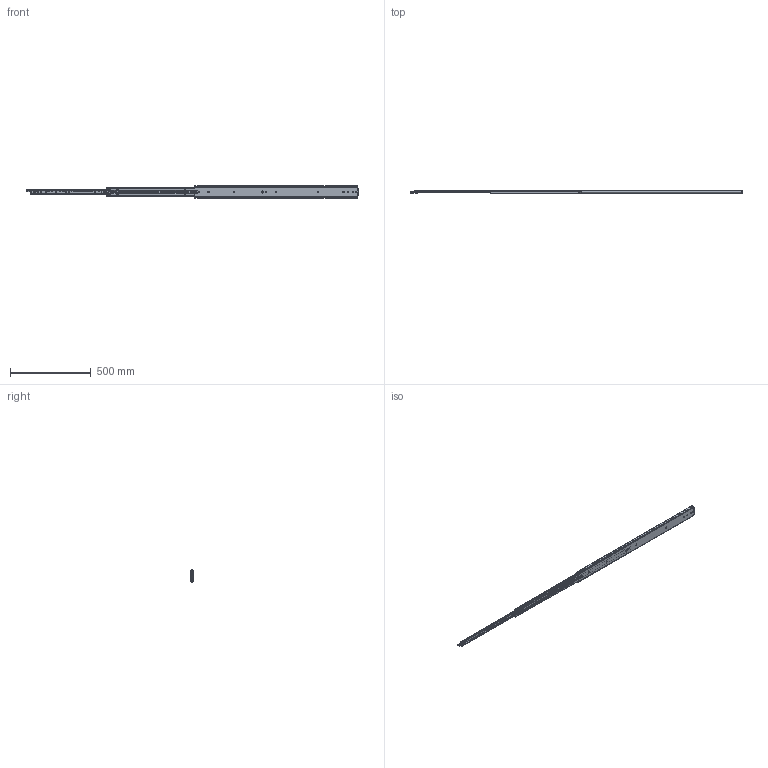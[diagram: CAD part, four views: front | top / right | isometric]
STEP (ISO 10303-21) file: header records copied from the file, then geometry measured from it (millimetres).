
FILE_DESCRIPTION((''),'2;1');
FILE_NAME('DG-76-3S-40YOU_ASM','2023-05-11T',('jishu015'),(''),'PRO/ENGINEER BY PARAMETRIC TECHNOLOGY CORPORATION, 2010280','PRO/ENGINEER BY PARAMETRIC TECHNOLOGY CORPORATION, 2010280','');
FILE_SCHEMA(('CONFIG_CONTROL_DESIGN'));
Products named in the file (29): KP-76-04WAIKE-1816__________; 1076-WAIKEZIDANJIAO16__________; WAIK16___________ASM; 1076XIAOZHUTIAO-22516__________; 16__________; 1076XIAOZHUTIAO-17516___________ASM; KP-76-04ZHONGGUI1816__________; 76CHANGGUIZHONGGUIJIAO1621__; 3X6WODIN16__________; ZHONGGUIBAIKOU16__________; PJ-76-30_________; PJ-76-03_________; 76-XIAOZHUJIA-11_________; GANGZHU-XIAO_________; ZHUJIA-XIAO__________ASM; ZHONGGUI6___________ASM; KP-76-04NEIGUI1816__________; PJ-76-31_________; DAOGPIAN16__________; 1053-3SBANJ01_________; JIAO-11_________; 76XINSUOKOU_________; PJ-338_________; PJ-356_________; PJ-357_________; PJ-336_________; M4X4_________; NEIGUI16___________ASM; DG-76-3S-40YOU_ASM
Assembly tree (83 placements, depth 4):
  DG-76-3S-40YOU_ASM
    WAIK16___________ASM
      KP-76-04WAIKE-1816__________
      1076-WAIKEZIDANJIAO16__________  x2
    1076XIAOZHUTIAO-17516___________ASM  x2
      1076XIAOZHUTIAO-22516__________
      16__________
    ZHONGGUI6___________ASM
      KP-76-04ZHONGGUI1816__________
      76CHANGGUIZHONGGUIJIAO1621__
      3X6WODIN16__________
      ZHONGGUIBAIKOU16__________
      PJ-76-30_________
      PJ-76-03_________
      ZHUJIA-XIAO__________ASM
        76-XIAOZHUJIA-11_________
        GANGZHU-XIAO_________  x38
    NEIGUI16___________ASM
      KP-76-04NEIGUI1816__________
      PJ-76-31_________
      DAOGPIAN16__________
      1053-3SBANJ01_________
      JIAO-11_________
      76XINSUOKOU_________
      PJ-338_________
      PJ-356_________
      PJ-357_________
      PJ-336_________
      M4X4_________
Bounding box: 2057.92 x 20.6 x 75.3 mm (x, y, z)
Volume: 668033.8 mm3; surface area: 644473.9 mm2
Topology: 96 solids, 96 shells, 2394 faces, 7247 edges, 4584 vertices
Faces by surface type: plane 1229, cylinder 887, sphere 151, bspline 60, cone 28, extrusion 23, torus 16
Entity records: 77693 total; most frequent: CARTESIAN_POINT 20817, ORIENTED_EDGE 12454, DIRECTION 11250, EDGE_CURVE 6227, VERTEX_POINT 4056, AXIS2_PLACEMENT_3D 3888, VECTOR 3474, LINE 3451
